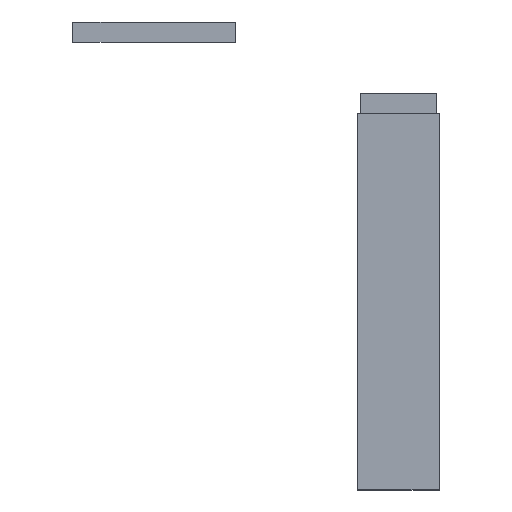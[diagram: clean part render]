
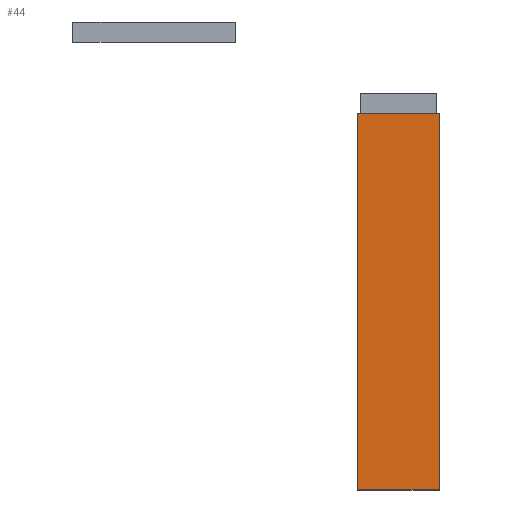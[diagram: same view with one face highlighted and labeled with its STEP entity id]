
A CAD part, front view. The second image highlights one B-rep face of the part: STEP entity #44.
In plain terms, the highlighted planar face has unit normal (0, -1, 0).
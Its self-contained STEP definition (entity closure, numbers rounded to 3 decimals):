
#44=ADVANCED_FACE('',(#70),#404,.T.);
#70=FACE_OUTER_BOUND('',#98,.T.);
#98=EDGE_LOOP('',(#186,#187,#188,#189));
#186=ORIENTED_EDGE('',*,*,#269,.T.);
#187=ORIENTED_EDGE('',*,*,#270,.T.);
#188=ORIENTED_EDGE('',*,*,#271,.F.);
#189=ORIENTED_EDGE('',*,*,#267,.F.);
#267=EDGE_CURVE('',#374,#375,#329,.T.);
#269=EDGE_CURVE('',#374,#376,#331,.T.);
#270=EDGE_CURVE('',#376,#377,#332,.T.);
#271=EDGE_CURVE('',#375,#377,#333,.T.);
#329=B_SPLINE_CURVE_WITH_KNOTS('',1,(#727,#728),.UNSPECIFIED.,.F.,.F.,(2,
2),(0.,8.),.UNSPECIFIED.);
#331=B_SPLINE_CURVE_WITH_KNOTS('',1,(#731,#732),.UNSPECIFIED.,.F.,.F.,(2,
2),(-139.64,-119.64),.UNSPECIFIED.);
#332=B_SPLINE_CURVE_WITH_KNOTS('',1,(#733,#734),.UNSPECIFIED.,.F.,.F.,(2,
2),(0.,8.),.UNSPECIFIED.);
#333=B_SPLINE_CURVE_WITH_KNOTS('',1,(#735,#736),.UNSPECIFIED.,.F.,.F.,(2,
2),(-139.64,-119.64),.UNSPECIFIED.);
#374=VERTEX_POINT('',#703);
#375=VERTEX_POINT('',#704);
#376=VERTEX_POINT('',#705);
#377=VERTEX_POINT('',#706);
#404=PLANE('',#517);
#517=AXIS2_PLACEMENT_3D('',#682,#546,$);
#546=DIRECTION('',(0.,-1.,0.));
#682=CARTESIAN_POINT('',(-107.,-25.,-56.633));
#703=CARTESIAN_POINT('',(-107.,-25.,-56.633));
#704=CARTESIAN_POINT('',(-115.,-25.,-56.633));
#705=CARTESIAN_POINT('',(-107.,-25.,-19.633));
#706=CARTESIAN_POINT('',(-115.,-25.,-19.633));
#727=CARTESIAN_POINT('',(-107.,-25.,-56.633));
#728=CARTESIAN_POINT('',(-115.,-25.,-56.633));
#731=CARTESIAN_POINT('',(-107.,-25.,-56.633));
#732=CARTESIAN_POINT('',(-107.,-25.,-19.633));
#733=CARTESIAN_POINT('',(-107.,-25.,-19.633));
#734=CARTESIAN_POINT('',(-115.,-25.,-19.633));
#735=CARTESIAN_POINT('',(-115.,-25.,-56.633));
#736=CARTESIAN_POINT('',(-115.,-25.,-19.633));
